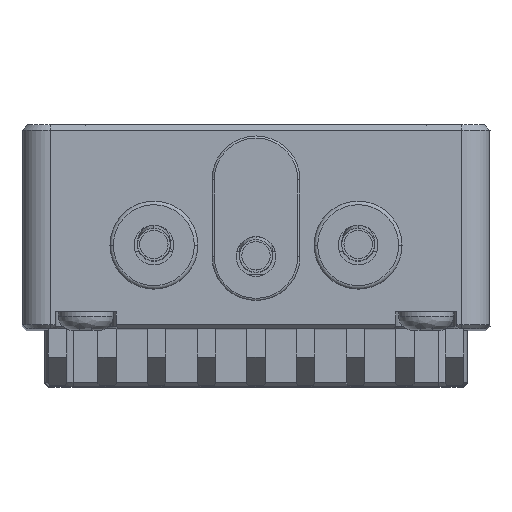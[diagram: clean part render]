
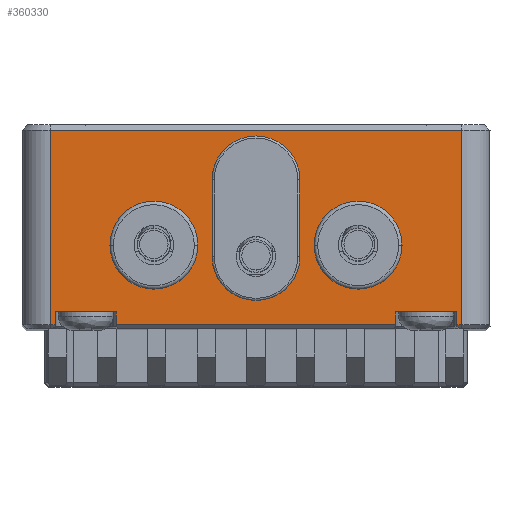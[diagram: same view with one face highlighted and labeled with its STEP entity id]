
A CAD part, top view. The second image highlights one B-rep face of the part: STEP entity #360330.
In plain terms, the highlighted planar face has unit normal (0, 0, 1) by its records, which use the part's own axes.
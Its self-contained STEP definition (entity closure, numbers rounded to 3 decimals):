
#52110=DIRECTION('',(-1.,0.,0.));
#52111=VECTOR('',#52110,0.35);
#52112=CARTESIAN_POINT('',(14.5,-5.6,
35.5));
#52113=LINE('',#52112,#52111);
#52114=DIRECTION('',(0.,1.,0.));
#52115=VECTOR('',#52114,0.9);
#52116=CARTESIAN_POINT('',(14.15,-5.6,35.5));
#52117=LINE('',#52116,#52115);
#52118=DIRECTION('',(1.,0.,0.));
#52119=VECTOR('',#52118,4.3);
#52120=CARTESIAN_POINT('',(9.85,-4.7,35.5));
#52121=LINE('',#52120,#52119);
#52122=DIRECTION('',(0.,1.,0.));
#52123=VECTOR('',#52122,0.9);
#52124=CARTESIAN_POINT('',(9.85,-5.6,35.5));
#52125=LINE('',#52124,#52123);
#52126=DIRECTION('',(-1.,0.,0.));
#52127=VECTOR('',#52126,19.7);
#52128=CARTESIAN_POINT('',(9.85,-5.6,35.5));
#52129=LINE('',#52128,#52127);
#52130=DIRECTION('',(0.,1.,0.));
#52131=VECTOR('',#52130,0.9);
#52132=CARTESIAN_POINT('',(-9.85,-5.6,35.5));
#52133=LINE('',#52132,#52131);
#52134=DIRECTION('',(1.,0.,0.));
#52135=VECTOR('',#52134,4.3);
#52136=CARTESIAN_POINT('',(-14.15,-4.7,35.5));
#52137=LINE('',#52136,#52135);
#52138=DIRECTION('',(0.,1.,0.));
#52139=VECTOR('',#52138,0.9);
#52140=CARTESIAN_POINT('',(-14.15,-5.6,35.5));
#52141=LINE('',#52140,#52139);
#52142=DIRECTION('',(-1.,0.,0.));
#52143=VECTOR('',#52142,0.35);
#52144=CARTESIAN_POINT('',(-14.15,-5.6,35.5));
#52145=LINE('',#52144,#52143);
#52146=DIRECTION('',(1.,0.,0.));
#52147=VECTOR('',#52146,29.);
#52148=CARTESIAN_POINT('',(-14.5,8.1,
35.5));
#52149=LINE('',#52148,#52147);
#52150=CARTESIAN_POINT('',(7.2,0.,35.5));
#52151=DIRECTION('',(0.,0.,1.));
#52152=DIRECTION('',(1.,0.,0.));
#52153=AXIS2_PLACEMENT_3D('',#52150,#52151,#52152);
#52155=DIRECTION('',(0.,-1.,0.));
#52156=VECTOR('',#52155,5.4);
#52157=CARTESIAN_POINT('',(-3.1,4.6,35.5));
#52158=LINE('',#52157,#52156);
#52159=DIRECTION('',(0.,1.,0.));
#52160=VECTOR('',#52159,5.4);
#52161=CARTESIAN_POINT('',(3.1,-0.8,35.5));
#52162=LINE('',#52161,#52160);
#52163=CARTESIAN_POINT('',(0.,4.6,35.5));
#52164=DIRECTION('',(0.,0.,-1.));
#52165=DIRECTION('',(-1.,0.,0.));
#52166=AXIS2_PLACEMENT_3D('',#52163,#52164,#52165);
#52168=CARTESIAN_POINT('',(-7.2,0.,35.5));
#52169=DIRECTION('',(0.,0.,1.));
#52170=DIRECTION('',(1.,0.,0.));
#52171=AXIS2_PLACEMENT_3D('',#52168,#52169,#52170);
#52182=DIRECTION('',(0.,1.,0.));
#52183=VECTOR('',#52182,13.7);
#52184=CARTESIAN_POINT('',(14.5,-5.6,
35.5));
#52185=LINE('',#52184,#52183);
#52961=DIRECTION('',(0.,-1.,0.));
#52962=VECTOR('',#52961,13.7);
#52963=CARTESIAN_POINT('',(-14.5,8.1,
35.5));
#52964=LINE('',#52963,#52962);
#62680=CARTESIAN_POINT('',(7.2,0.,35.5));
#62681=DIRECTION('',(0.,0.,1.));
#62682=DIRECTION('',(-1.,0.,0.));
#62683=AXIS2_PLACEMENT_3D('',#62680,#62681,#62682);
#63567=CARTESIAN_POINT('',(0.,-0.8,35.5));
#63568=DIRECTION('',(0.,0.,-1.));
#63569=DIRECTION('',(1.,0.,0.));
#63570=AXIS2_PLACEMENT_3D('',#63567,#63568,#63569);
#63593=CARTESIAN_POINT('',(-7.2,0.,35.5));
#63594=DIRECTION('',(0.,0.,1.));
#63595=DIRECTION('',(-1.,0.,0.));
#63596=AXIS2_PLACEMENT_3D('',#63593,#63594,#63595);
#261762=CARTESIAN_POINT('',(-14.5,8.1,35.5));
#261764=VERTEX_POINT('',#261762);
#261767=CARTESIAN_POINT('',(14.5,8.1,
35.5));
#261768=VERTEX_POINT('',#261767);
#262180=CARTESIAN_POINT('',(-3.1,4.6,35.5));
#262181=CARTESIAN_POINT('',(3.1,4.6,35.5));
#262182=VERTEX_POINT('',#262180);
#262183=VERTEX_POINT('',#262181);
#263943=CARTESIAN_POINT('',(14.5,-5.6,35.5));
#263944=VERTEX_POINT('',#263943);
#263949=CARTESIAN_POINT('',(-14.5,-5.6,35.5));
#263951=VERTEX_POINT('',#263949);
#264035=CARTESIAN_POINT('',(-14.15,-4.7,35.5));
#264036=CARTESIAN_POINT('',(-9.85,-4.7,35.5));
#264037=VERTEX_POINT('',#264035);
#264038=VERTEX_POINT('',#264036);
#264039=CARTESIAN_POINT('',(9.85,-4.7,35.5));
#264040=CARTESIAN_POINT('',(14.15,-4.7,35.5));
#264041=VERTEX_POINT('',#264039);
#264042=VERTEX_POINT('',#264040);
#264059=CARTESIAN_POINT('',(14.15,-5.6,35.5));
#264060=VERTEX_POINT('',#264059);
#264061=CARTESIAN_POINT('',(9.85,-5.6,35.5));
#264062=CARTESIAN_POINT('',(-9.85,-5.6,35.5));
#264063=VERTEX_POINT('',#264061);
#264064=VERTEX_POINT('',#264062);
#264065=CARTESIAN_POINT('',(-14.15,-5.6,35.5));
#264066=VERTEX_POINT('',#264065);
#264275=CARTESIAN_POINT('',(3.1,-0.8,35.5));
#264276=CARTESIAN_POINT('',(-3.1,-0.8,35.5));
#264277=VERTEX_POINT('',#264275);
#264278=VERTEX_POINT('',#264276);
#264298=CARTESIAN_POINT('',(4.1,0.,35.5));
#264299=CARTESIAN_POINT('',(10.3,0.,35.5));
#264300=VERTEX_POINT('',#264298);
#264301=VERTEX_POINT('',#264299);
#264316=CARTESIAN_POINT('',(-10.3,0.,35.5));
#264317=CARTESIAN_POINT('',(-4.1,0.,35.5));
#264318=VERTEX_POINT('',#264316);
#264319=VERTEX_POINT('',#264317);
#360278=CARTESIAN_POINT('',(-16.5,0.,35.5));
#360279=DIRECTION('',(0.,0.,1.));
#360280=DIRECTION('',(1.,0.,0.));
#360281=AXIS2_PLACEMENT_3D('',#360278,#360279,#360280);
#360282=PLANE('',#360281);
#360284=ORIENTED_EDGE('',*,*,#360283,.F.);
#360286=ORIENTED_EDGE('',*,*,#360285,.T.);
#360288=ORIENTED_EDGE('',*,*,#360287,.T.);
#360290=ORIENTED_EDGE('',*,*,#360289,.F.);
#360292=ORIENTED_EDGE('',*,*,#360291,.F.);
#360294=ORIENTED_EDGE('',*,*,#360293,.T.);
#360296=ORIENTED_EDGE('',*,*,#360295,.T.);
#360298=ORIENTED_EDGE('',*,*,#360297,.F.);
#360300=ORIENTED_EDGE('',*,*,#360299,.F.);
#360302=ORIENTED_EDGE('',*,*,#360301,.T.);
#360304=ORIENTED_EDGE('',*,*,#360303,.F.);
#360306=ORIENTED_EDGE('',*,*,#360305,.T.);
#360307=EDGE_LOOP('',(#360284,#360286,#360288,#360290,#360292,#360294,#360296,
#360298,#360300,#360302,#360304,#360306));
#360308=FACE_OUTER_BOUND('',#360307,.F.);
#360310=ORIENTED_EDGE('',*,*,#360309,.T.);
#360312=ORIENTED_EDGE('',*,*,#360311,.T.);
#360313=EDGE_LOOP('',(#360310,#360312));
#360314=FACE_BOUND('',#360313,.F.);
#360316=ORIENTED_EDGE('',*,*,#360315,.T.);
#360318=ORIENTED_EDGE('',*,*,#360317,.F.);
#360320=ORIENTED_EDGE('',*,*,#360319,.T.);
#360321=ORIENTED_EDGE('',*,*,#360261,.F.);
#360322=EDGE_LOOP('',(#360316,#360318,#360320,#360321));
#360323=FACE_BOUND('',#360322,.F.);
#360325=ORIENTED_EDGE('',*,*,#360324,.T.);
#360327=ORIENTED_EDGE('',*,*,#360326,.T.);
#360328=EDGE_LOOP('',(#360325,#360327));
#360329=FACE_BOUND('',#360328,.F.);
#360330=ADVANCED_FACE('',(#360308,#360314,#360323,#360329),#360282,.T.);
#52154=CIRCLE('',#52153,3.1);
#52167=CIRCLE('',#52166,3.1);
#52172=CIRCLE('',#52171,3.1);
#62684=CIRCLE('',#62683,3.1);
#63571=CIRCLE('',#63570,3.1);
#63597=CIRCLE('',#63596,3.1);
#360261=EDGE_CURVE('',#262182,#262183,#52167,.T.);
#360283=EDGE_CURVE('',#263944,#261768,#52185,.T.);
#360285=EDGE_CURVE('',#263944,#264060,#52113,.T.);
#360287=EDGE_CURVE('',#264060,#264042,#52117,.T.);
#360289=EDGE_CURVE('',#264041,#264042,#52121,.T.);
#360291=EDGE_CURVE('',#264063,#264041,#52125,.T.);
#360293=EDGE_CURVE('',#264063,#264064,#52129,.T.);
#360295=EDGE_CURVE('',#264064,#264038,#52133,.T.);
#360297=EDGE_CURVE('',#264037,#264038,#52137,.T.);
#360299=EDGE_CURVE('',#264066,#264037,#52141,.T.);
#360301=EDGE_CURVE('',#264066,#263951,#52145,.T.);
#360303=EDGE_CURVE('',#261764,#263951,#52964,.T.);
#360305=EDGE_CURVE('',#261764,#261768,#52149,.T.);
#360309=EDGE_CURVE('',#264301,#264300,#52154,.T.);
#360311=EDGE_CURVE('',#264300,#264301,#62684,.T.);
#360315=EDGE_CURVE('',#262182,#264278,#52158,.T.);
#360317=EDGE_CURVE('',#264277,#264278,#63571,.T.);
#360319=EDGE_CURVE('',#264277,#262183,#52162,.T.);
#360324=EDGE_CURVE('',#264319,#264318,#52172,.T.);
#360326=EDGE_CURVE('',#264318,#264319,#63597,.T.);
